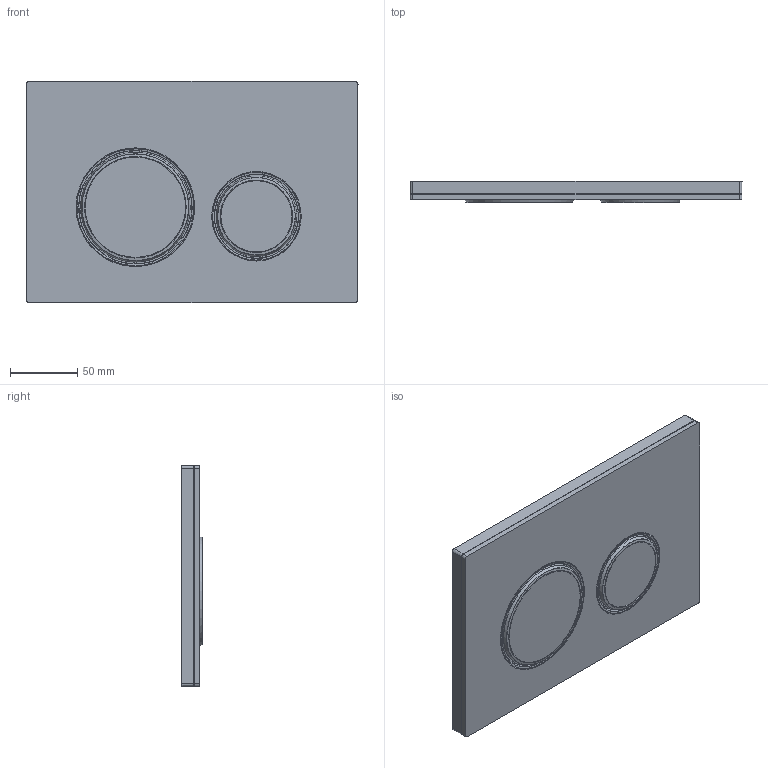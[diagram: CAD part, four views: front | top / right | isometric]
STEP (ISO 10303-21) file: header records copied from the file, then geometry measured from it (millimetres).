
FILE_DESCRIPTION(/* description */ (''),/* implementation_level */ '2;1');
FILE_NAME(/* name */ 'C:\Planerdaten\Export PLA\115.650.00.1\stp\115884.stp',/* time_stamp */ '2021-10-08T09:31:54+02:00',/* author */ ('JANAN'),/* organization */ (''),/* preprocessor_version */ 'ST-DEVELOPER v16.13',/* originating_system */ 'Autodesk Inventor 2018',/* authorisation */ '');
FILE_SCHEMA (('AUTOMOTIVE_DESIGN { 1 0 10303 214 3 1 1 }'));
Length unit declared in the file: millimetre
Products named in the file (1): tmp2CF3.tmp
Bounding box: 246.19 x 15.95 x 164.19 mm (x, y, z)
Volume: 547870.1 mm3; surface area: 213660.9 mm2
Topology: 6 solids, 6 shells, 79 faces, 168 edges, 105 vertices
Faces by surface type: plane 24, cone 23, torus 18, cylinder 14
Full cylindrical faces by diameter (mm): 52.8 x1, 59.793 x1, 66.4 x1, 74.4 x1, 81.393 x1, 88 x1
Entity records: 2022 total; most frequent: DIRECTION 372, CARTESIAN_POINT 304, ORIENTED_EDGE 254, AXIS2_PLACEMENT_3D 165, EDGE_CURVE 127, EDGE_LOOP 116, VERTEX_POINT 97, CIRCLE 85
